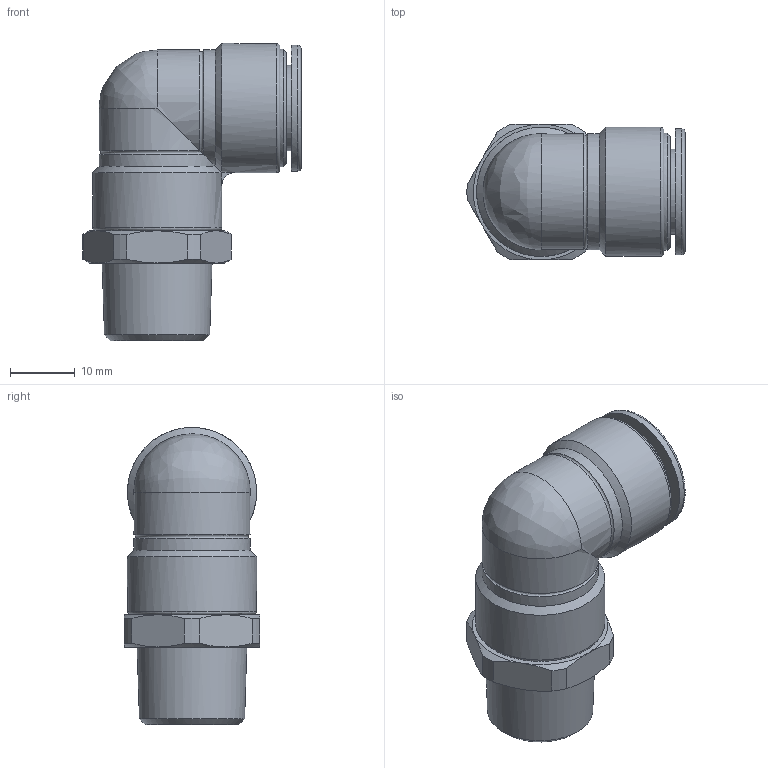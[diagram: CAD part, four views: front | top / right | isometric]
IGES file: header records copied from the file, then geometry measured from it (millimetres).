
Global section: file name: [16] FS12-03ML FS12-03MLW; native system: Autodesk Inventor 2014; preprocessor: unknown; author: kazuhiro.t; date: 20130806.164826; units: millimetre
Bounding box: 33.8 x 21 x 46 mm (x, y, z)
Volume: 14126.8 mm3; surface area: 5028.3 mm2
Topology: 1 solids, 1 shells, 60 faces, 137 edges, 83 vertices
Faces by surface type: bspline 60
